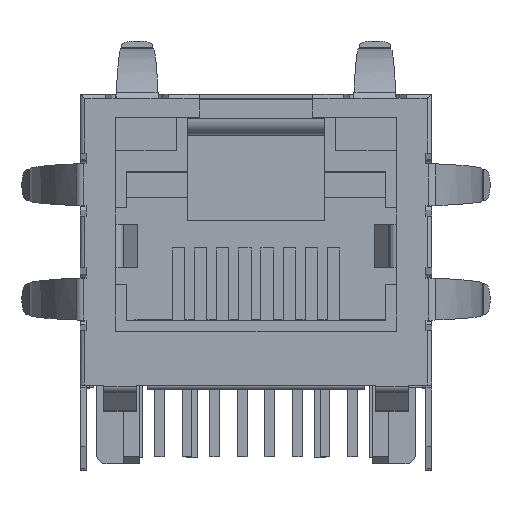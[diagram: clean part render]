
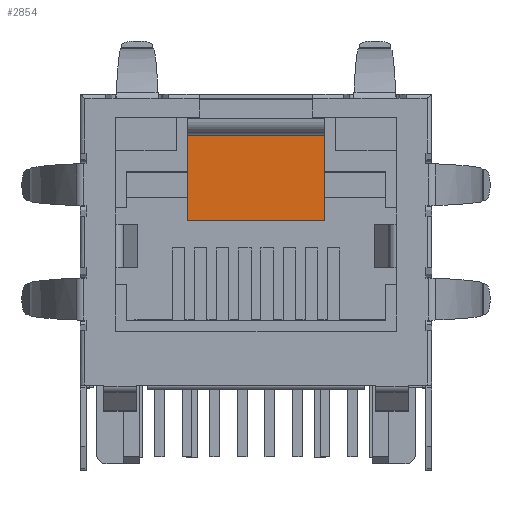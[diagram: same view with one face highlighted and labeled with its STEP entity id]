
A CAD part, top view. The second image highlights one B-rep face of the part: STEP entity #2854.
In plain terms, the highlighted planar face has unit normal (0, 0, 1).
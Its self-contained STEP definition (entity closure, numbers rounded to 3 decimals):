
#55 = VECTOR ( 'NONE', #8765, 1000. ) ;
#433 = CARTESIAN_POINT ( 'NONE',  ( -26.616, 31.593, 5.108 ) ) ;
#2022 = CARTESIAN_POINT ( 'NONE',  ( -26.616, 27.707, 5.108 ) ) ;
#2123 = DIRECTION ( 'NONE',  ( 1., 0., 0. ) ) ;
#2854 = ADVANCED_FACE ( 'NONE', ( #18527 ), #13763, .F. ) ;
#2911 = EDGE_CURVE ( 'NONE', #14783, #19950, #15393, .T. ) ;
#2940 = ORIENTED_EDGE ( 'NONE', *, *, #2911, .F. ) ;
#3517 = ORIENTED_EDGE ( 'NONE', *, *, #13358, .T. ) ;
#3740 = ORIENTED_EDGE ( 'NONE', *, *, #19590, .T. ) ;
#5267 = VERTEX_POINT ( 'NONE', #19316 ) ;
#5590 = ORIENTED_EDGE ( 'NONE', *, *, #7140, .F. ) ;
#7140 = EDGE_CURVE ( 'NONE', #5267, #19259, #12930, .T. ) ;
#7160 = CARTESIAN_POINT ( 'NONE',  ( -23.466, 27.707, 5.108 ) ) ;
#8765 = DIRECTION ( 'NONE',  ( -1., 0., 0. ) ) ;
#9560 = CARTESIAN_POINT ( 'NONE',  ( -26.616, 31.593, 5.108 ) ) ;
#10755 = CARTESIAN_POINT ( 'NONE',  ( -23.466, 31.593, 5.108 ) ) ;
#10975 = VECTOR ( 'NONE', #15687, 1000. ) ;
#11470 = DIRECTION ( 'NONE',  ( 0., 1., 0. ) ) ;
#11748 = VECTOR ( 'NONE', #11470, 1000. ) ;
#12167 = DIRECTION ( 'NONE',  ( 0., 0., -1. ) ) ;
#12930 = LINE ( 'NONE', #7160, #55 ) ;
#13244 = VECTOR ( 'NONE', #14036, 1000. ) ;
#13358 = EDGE_CURVE ( 'NONE', #14783, #19259, #13745, .T. ) ;
#13745 = LINE ( 'NONE', #20670, #13244 ) ;
#13763 = PLANE ( 'NONE',  #16087 ) ;
#14036 = DIRECTION ( 'NONE',  ( 0., -1., 0. ) ) ;
#14783 = VERTEX_POINT ( 'NONE', #9560 ) ;
#15393 = LINE ( 'NONE', #10755, #10975 ) ;
#15687 = DIRECTION ( 'NONE',  ( 1., 0., 0. ) ) ;
#16087 = AXIS2_PLACEMENT_3D ( 'NONE', #433, #12167, #2123 ) ;
#16705 = LINE ( 'NONE', #19771, #11748 ) ;
#16800 = EDGE_LOOP ( 'NONE', ( #3740, #2940, #3517, #5590 ) ) ;
#18527 = FACE_OUTER_BOUND ( 'NONE', #16800, .T. ) ;
#19259 = VERTEX_POINT ( 'NONE', #2022 ) ;
#19316 = CARTESIAN_POINT ( 'NONE',  ( -20.317, 27.707, 5.108 ) ) ;
#19572 = CARTESIAN_POINT ( 'NONE',  ( -20.317, 31.593, 5.108 ) ) ;
#19590 = EDGE_CURVE ( 'NONE', #5267, #19950, #16705, .T. ) ;
#19771 = CARTESIAN_POINT ( 'NONE',  ( -20.317, 30.045, 5.108 ) ) ;
#19950 = VERTEX_POINT ( 'NONE', #19572 ) ;
#20670 = CARTESIAN_POINT ( 'NONE',  ( -26.616, 30.045, 5.108 ) ) ;
